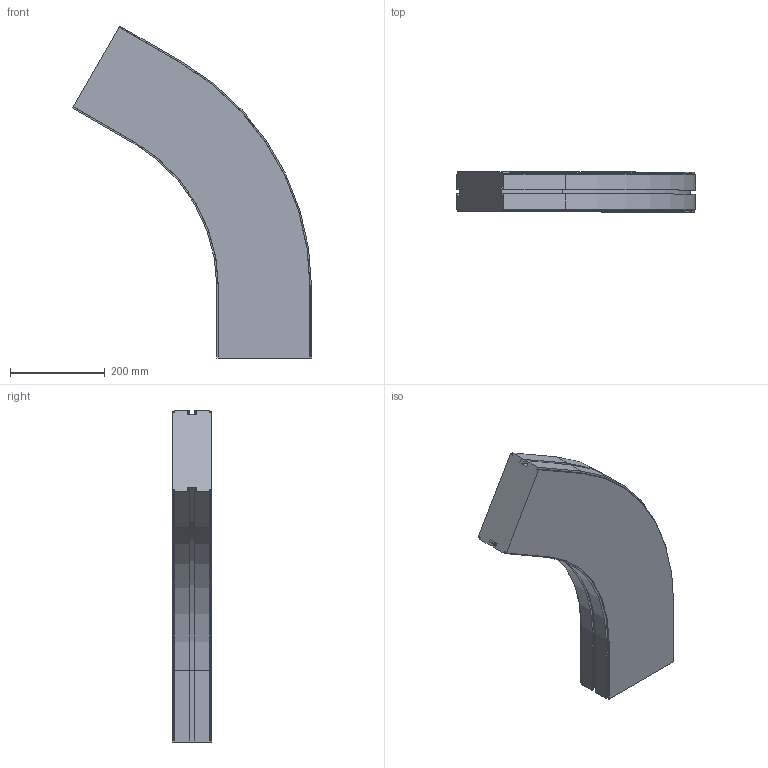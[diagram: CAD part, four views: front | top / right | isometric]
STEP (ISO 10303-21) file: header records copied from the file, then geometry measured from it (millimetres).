
FILE_DESCRIPTION (( 'STEP AP214' ), '1' );
FILE_NAME ('CS SL Horizontaalbocht.200 60° R450.STEP', '2017-02-08T07:35:42', ( '' ), ( '' ), 'SwSTEP 2.0', 'SolidWorks 2016', '' );
FILE_SCHEMA (( 'AUTOMOTIVE_DESIGN' ));
Length unit declared in the file: millimetre
Products named in the file (1): CS SL Horizontaalbocht.200 60° R450
Bounding box: 504.9 x 84 x 701.31 mm (x, y, z)
Volume: 12621039.2 mm3; surface area: 552513.3 mm2
Topology: 1 solids, 1 shells, 98 faces, 272 edges, 176 vertices
Faces by surface type: plane 72, cylinder 18, cone 8
Entity records: 3126 total; most frequent: CARTESIAN_POINT 547, ORIENTED_EDGE 544, DIRECTION 514, EDGE_CURVE 272, VECTOR 228, LINE 228, VERTEX_POINT 176, AXIS2_PLACEMENT_3D 143
